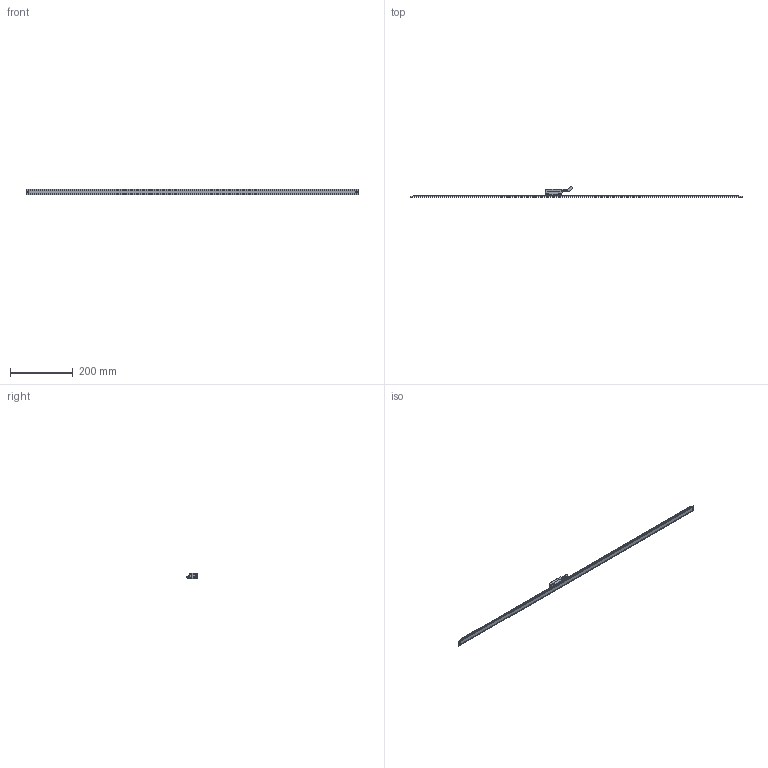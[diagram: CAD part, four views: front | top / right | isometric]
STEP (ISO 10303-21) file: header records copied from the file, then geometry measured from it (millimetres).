
FILE_DESCRIPTION (( 'STEP AP214' ), '1' );
FILE_NAME ('LA12_SAS10_welded_cover_foil.STEP', '2021-10-22T10:56:05', ( '' ), ( '' ), 'SwSTEP 2.0', 'SolidWorks 2020', '' );
FILE_SCHEMA (( 'AUTOMOTIVE_DESIGN' ));
Length unit declared in the file: millimetre
Products named in the file (3): LA12_SAS10_welded_cover_foil; Letev_SAS_L1060mm_varjena; LA12_readhead
Assembly tree (2 placements, depth 2):
  LA12_SAS10_welded_cover_foil
    Letev_SAS_L1060mm_varjena
    LA12_readhead
Bounding box: 1060 x 32.63 x 18 mm (x, y, z)
Volume: 122351.3 mm3; surface area: 131917.7 mm2
Topology: 4 solids, 5 shells, 350 faces, 830 edges, 506 vertices
Faces by surface type: plane 165, cylinder 107, cone 56, torus 16, bspline 4, sphere 2
Entity records: 12044 total; most frequent: CARTESIAN_POINT 2159, DIRECTION 1757, ORIENTED_EDGE 1652, EDGE_CURVE 826, AXIS2_PLACEMENT_3D 620, VECTOR 517, LINE 517, VERTEX_POINT 506
